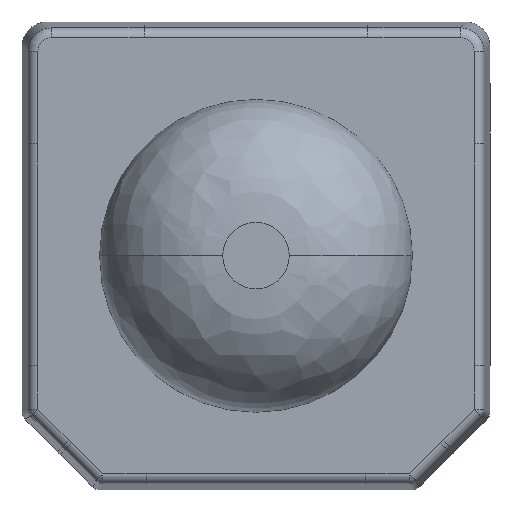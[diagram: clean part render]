
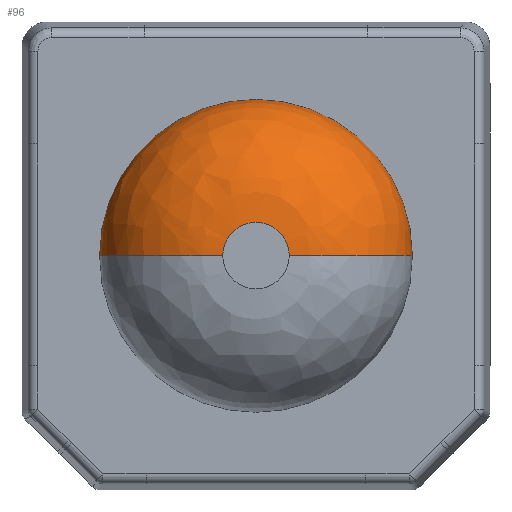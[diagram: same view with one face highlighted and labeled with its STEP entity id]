
A CAD part, top view. The second image highlights one B-rep face of the part: STEP entity #96.
In plain terms, the highlighted free-form (B-spline) face has degree [2, 2] with [5, 3] control points.
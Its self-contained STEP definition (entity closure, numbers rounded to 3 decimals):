
#96=ADVANCED_FACE('',(#175),#1110,.T.);
#175=FACE_OUTER_BOUND('',#254,.T.);
#254=EDGE_LOOP('',(#597,#598,#599,#600));
#597=ORIENTED_EDGE('',*,*,#771,.T.);
#598=ORIENTED_EDGE('',*,*,#767,.T.);
#599=ORIENTED_EDGE('',*,*,#773,.F.);
#600=ORIENTED_EDGE('',*,*,#772,.F.);
#767=EDGE_CURVE('',#1088,#1089,#812,.T.);
#771=EDGE_CURVE('',#1091,#1088,#815,.T.);
#772=EDGE_CURVE('',#1091,#1092,#816,.T.);
#773=EDGE_CURVE('',#1092,#1089,#817,.T.);
#812=TRIMMED_CURVE($,#856,(#2858),(#2859),.T.,.CARTESIAN.);
#815=TRIMMED_CURVE($,#859,(#2869),(#2870),.T.,.CARTESIAN.);
#816=TRIMMED_CURVE($,#860,(#2872),(#2873),.T.,.CARTESIAN.);
#817=TRIMMED_CURVE($,#861,(#2875),(#2876),.T.,.CARTESIAN.);
#856=CIRCLE('',#1287,2.5);
#859=CIRCLE('',#1290,3.175);
#860=CIRCLE('',#1291,2.5);
#861=CIRCLE('',#1292,0.675);
#1088=VERTEX_POINT('',#2118);
#1089=VERTEX_POINT('',#2119);
#1091=VERTEX_POINT('',#2121);
#1092=VERTEX_POINT('',#2122);
#1110=(
BOUNDED_SURFACE()
B_SPLINE_SURFACE(2,2,((#2008,#2009,#2010),(#2011,#2012,#2013),(#2014,#2015,
#2016),(#2017,#2018,#2019),(#2020,#2021,#2022)),.UNSPECIFIED.,.F.,.F.,.F.)
B_SPLINE_SURFACE_WITH_KNOTS((3,2,3),(3,3),(2.12,3.179,
4.239),(0.,3.927),.UNSPECIFIED.)
GEOMETRIC_REPRESENTATION_ITEM()
RATIONAL_B_SPLINE_SURFACE(((1.,0.707,1.),(0.707,
0.5,0.707),(1.,0.707,1.),(0.707,0.5,
0.707),(1.,0.707,1.)))
REPRESENTATION_ITEM('')
SURFACE()
);
#1287=AXIS2_PLACEMENT_3D($,#2857,#1432,#1433);
#1290=AXIS2_PLACEMENT_3D($,#2868,#1438,#1439);
#1291=AXIS2_PLACEMENT_3D($,#2871,#1440,#1441);
#1292=AXIS2_PLACEMENT_3D($,#2874,#1442,#1443);
#1432=DIRECTION('',(0.,1.,0.));
#1433=DIRECTION('',(-1.,0.,0.));
#1438=DIRECTION('',(0.,0.,1.));
#1439=DIRECTION('',(1.,0.,0.));
#1440=DIRECTION('',(0.,-1.,0.));
#1441=DIRECTION('',(1.,0.,0.));
#1442=DIRECTION('',(0.,0.,1.));
#1443=DIRECTION('',(1.,0.,0.));
#2008=CARTESIAN_POINT('',(3.175,0.,2.3));
#2009=CARTESIAN_POINT('',(3.175,0.,4.8));
#2010=CARTESIAN_POINT('',(0.675,0.,4.8));
#2011=CARTESIAN_POINT('',(3.175,3.175,2.3));
#2012=CARTESIAN_POINT('',(3.175,3.175,4.8));
#2013=CARTESIAN_POINT('',(0.675,0.675,4.8));
#2014=CARTESIAN_POINT('',(0.,3.175,2.3));
#2015=CARTESIAN_POINT('',(0.,3.175,4.8));
#2016=CARTESIAN_POINT('',(0.,0.675,4.8));
#2017=CARTESIAN_POINT('',(-3.175,3.175,2.3));
#2018=CARTESIAN_POINT('',(-3.175,3.175,4.8));
#2019=CARTESIAN_POINT('',(-0.675,0.675,4.8));
#2020=CARTESIAN_POINT('',(-3.175,0.,2.3));
#2021=CARTESIAN_POINT('',(-3.175,0.,4.8));
#2022=CARTESIAN_POINT('',(-0.675,0.,4.8));
#2118=CARTESIAN_POINT('',(-3.175,0.,2.3));
#2119=CARTESIAN_POINT('',(-0.675,0.,4.8));
#2121=CARTESIAN_POINT('',(3.175,0.,2.3));
#2122=CARTESIAN_POINT('',(0.675,0.,4.8));
#2857=CARTESIAN_POINT('',(-0.675,0.,2.3));
#2858=CARTESIAN_POINT('',(-3.175,0.,2.3));
#2859=CARTESIAN_POINT('',(-0.675,0.,4.8));
#2868=CARTESIAN_POINT('',(0.,0.,2.3));
#2869=CARTESIAN_POINT('',(3.175,0.,2.3));
#2870=CARTESIAN_POINT('',(-3.175,0.,2.3));
#2871=CARTESIAN_POINT('',(0.675,0.,2.3));
#2872=CARTESIAN_POINT('',(3.175,0.,2.3));
#2873=CARTESIAN_POINT('',(0.675,0.,4.8));
#2874=CARTESIAN_POINT('',(0.,0.,4.8));
#2875=CARTESIAN_POINT('',(0.675,0.,4.8));
#2876=CARTESIAN_POINT('',(-0.675,0.,4.8));
